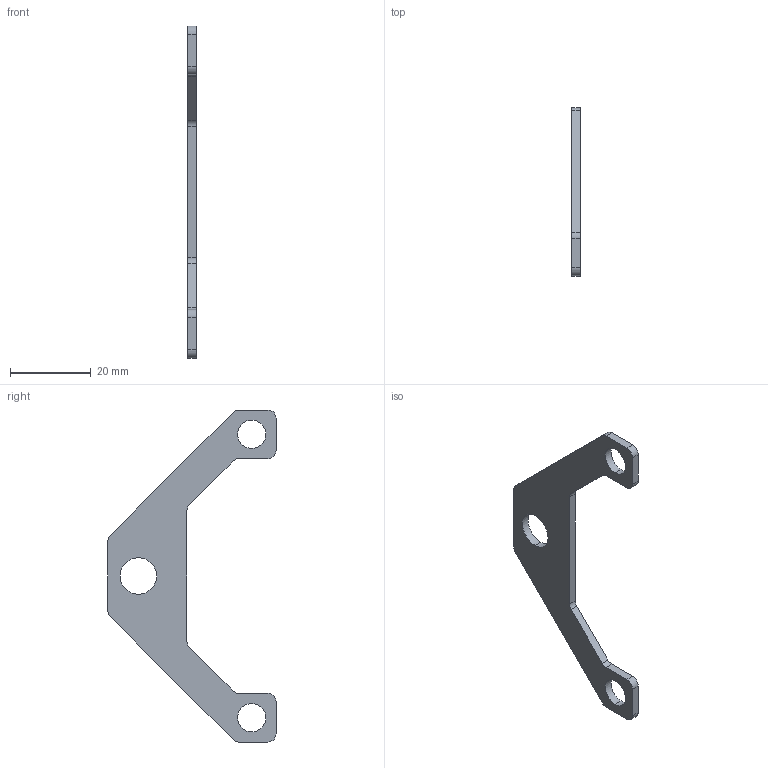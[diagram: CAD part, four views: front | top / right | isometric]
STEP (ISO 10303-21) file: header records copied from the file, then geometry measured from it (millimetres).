
FILE_DESCRIPTION (( 'STEP AP214' ), '1' );
FILE_NAME ('NTS220-B-DOG.STEP', '2025-01-08T06:27:36', ( '' ), ( '' ), 'SwSTEP 2.0', 'SolidWorks 2022', '' );
FILE_SCHEMA (( 'AUTOMOTIVE_DESIGN' ));
Length unit declared in the file: millimetre
Products named in the file (1): NTS220-B-DOG
Bounding box: 2 x 41.5 x 82 mm (x, y, z)
Volume: 2269.4 mm3; surface area: 2885.8 mm2
Topology: 1 solids, 1 shells, 32 faces, 90 edges, 60 vertices
Faces by surface type: cylinder 18, plane 14
Entity records: 1096 total; most frequent: DIRECTION 192, CARTESIAN_POINT 183, ORIENTED_EDGE 180, EDGE_CURVE 90, AXIS2_PLACEMENT_3D 69, VERTEX_POINT 60, VECTOR 54, LINE 54
